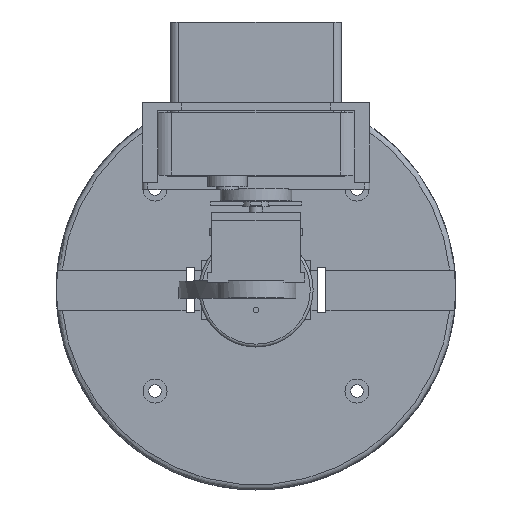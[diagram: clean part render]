
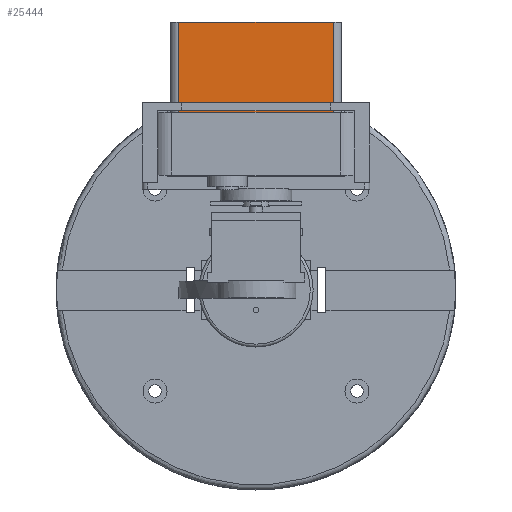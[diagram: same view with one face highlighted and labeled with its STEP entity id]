
A CAD part, top view. The second image highlights one B-rep face of the part: STEP entity #25444.
In plain terms, the highlighted planar face has unit normal (0, 0, 1).
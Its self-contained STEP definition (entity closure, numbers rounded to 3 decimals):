
#24814 = PLANE('',#24815);
#24815 = AXIS2_PLACEMENT_3D('',#24816,#24817,#24818);
#24816 = CARTESIAN_POINT('',(-30.,49.,90.));
#24817 = DIRECTION('',(0.,1.,0.));
#24818 = DIRECTION('',(0.,0.,1.));
#24870 = PLANE('',#24871);
#24871 = AXIS2_PLACEMENT_3D('',#24872,#24873,#24874);
#24872 = CARTESIAN_POINT('',(-30.,93.64,90.));
#24873 = DIRECTION('',(0.,1.,0.));
#24874 = DIRECTION('',(0.,0.,1.));
#24896 = CYLINDRICAL_SURFACE('',#24897,3.);
#24897 = AXIS2_PLACEMENT_3D('',#24898,#24899,#24900);
#24898 = CARTESIAN_POINT('',(-27.,49.,99.));
#24899 = DIRECTION('',(0.,1.,0.));
#24900 = DIRECTION('',(-1.,0.,0.));
#24969 = VERTEX_POINT('',#24970);
#24970 = CARTESIAN_POINT('',(-27.,49.,102.));
#24992 = EDGE_CURVE('',#24969,#24993,#24995,.T.);
#24993 = VERTEX_POINT('',#24994);
#24994 = CARTESIAN_POINT('',(27.,49.,102.));
#24995 = SURFACE_CURVE('',#24996,(#25000,#25007),.PCURVE_S1.);
#24996 = LINE('',#24997,#24998);
#24997 = CARTESIAN_POINT('',(-30.,49.,102.));
#24998 = VECTOR('',#24999,1.);
#24999 = DIRECTION('',(1.,0.,0.));
#25000 = PCURVE('',#24814,#25001);
#25001 = DEFINITIONAL_REPRESENTATION('',(#25002),#25006);
#25002 = LINE('',#25003,#25004);
#25003 = CARTESIAN_POINT('',(12.,0.));
#25004 = VECTOR('',#25005,1.);
#25005 = DIRECTION('',(0.,1.));
#25006 = ( GEOMETRIC_REPRESENTATION_CONTEXT(2) 
PARAMETRIC_REPRESENTATION_CONTEXT() REPRESENTATION_CONTEXT('2D SPACE',''
  ) );
#25007 = PCURVE('',#25008,#25013);
#25008 = PLANE('',#25009);
#25009 = AXIS2_PLACEMENT_3D('',#25010,#25011,#25012);
#25010 = CARTESIAN_POINT('',(-30.,49.,102.));
#25011 = DIRECTION('',(0.,0.,1.));
#25012 = DIRECTION('',(1.,0.,0.));
#25013 = DEFINITIONAL_REPRESENTATION('',(#25014),#25018);
#25014 = LINE('',#25015,#25016);
#25015 = CARTESIAN_POINT('',(0.,0.));
#25016 = VECTOR('',#25017,1.);
#25017 = DIRECTION('',(1.,0.));
#25018 = ( GEOMETRIC_REPRESENTATION_CONTEXT(2) 
PARAMETRIC_REPRESENTATION_CONTEXT() REPRESENTATION_CONTEXT('2D SPACE',''
  ) );
#25041 = CYLINDRICAL_SURFACE('',#25042,3.);
#25042 = AXIS2_PLACEMENT_3D('',#25043,#25044,#25045);
#25043 = CARTESIAN_POINT('',(27.,49.,99.));
#25044 = DIRECTION('',(0.,1.,0.));
#25045 = DIRECTION('',(1.,0.,-0.));
#25166 = EDGE_CURVE('',#24969,#25167,#25169,.T.);
#25167 = VERTEX_POINT('',#25168);
#25168 = CARTESIAN_POINT('',(-27.,93.64,102.));
#25169 = SURFACE_CURVE('',#25170,(#25174,#25181),.PCURVE_S1.);
#25170 = LINE('',#25171,#25172);
#25171 = CARTESIAN_POINT('',(-27.,49.,102.));
#25172 = VECTOR('',#25173,1.);
#25173 = DIRECTION('',(0.,1.,0.));
#25174 = PCURVE('',#24896,#25175);
#25175 = DEFINITIONAL_REPRESENTATION('',(#25176),#25180);
#25176 = LINE('',#25177,#25178);
#25177 = CARTESIAN_POINT('',(1.571,0.));
#25178 = VECTOR('',#25179,1.);
#25179 = DIRECTION('',(0.,1.));
#25180 = ( GEOMETRIC_REPRESENTATION_CONTEXT(2) 
PARAMETRIC_REPRESENTATION_CONTEXT() REPRESENTATION_CONTEXT('2D SPACE',''
  ) );
#25181 = PCURVE('',#25008,#25182);
#25182 = DEFINITIONAL_REPRESENTATION('',(#25183),#25187);
#25183 = LINE('',#25184,#25185);
#25184 = CARTESIAN_POINT('',(3.,0.));
#25185 = VECTOR('',#25186,1.);
#25186 = DIRECTION('',(0.,1.));
#25187 = ( GEOMETRIC_REPRESENTATION_CONTEXT(2) 
PARAMETRIC_REPRESENTATION_CONTEXT() REPRESENTATION_CONTEXT('2D SPACE',''
  ) );
#25241 = EDGE_CURVE('',#25167,#25242,#25244,.T.);
#25242 = VERTEX_POINT('',#25243);
#25243 = CARTESIAN_POINT('',(27.,93.64,102.));
#25244 = SURFACE_CURVE('',#25245,(#25249,#25256),.PCURVE_S1.);
#25245 = LINE('',#25246,#25247);
#25246 = CARTESIAN_POINT('',(-30.,93.64,102.));
#25247 = VECTOR('',#25248,1.);
#25248 = DIRECTION('',(1.,0.,0.));
#25249 = PCURVE('',#24870,#25250);
#25250 = DEFINITIONAL_REPRESENTATION('',(#25251),#25255);
#25251 = LINE('',#25252,#25253);
#25252 = CARTESIAN_POINT('',(12.,0.));
#25253 = VECTOR('',#25254,1.);
#25254 = DIRECTION('',(0.,1.));
#25255 = ( GEOMETRIC_REPRESENTATION_CONTEXT(2) 
PARAMETRIC_REPRESENTATION_CONTEXT() REPRESENTATION_CONTEXT('2D SPACE',''
  ) );
#25256 = PCURVE('',#25008,#25257);
#25257 = DEFINITIONAL_REPRESENTATION('',(#25258),#25262);
#25258 = LINE('',#25259,#25260);
#25259 = CARTESIAN_POINT('',(0.,44.64));
#25260 = VECTOR('',#25261,1.);
#25261 = DIRECTION('',(1.,0.));
#25262 = ( GEOMETRIC_REPRESENTATION_CONTEXT(2) 
PARAMETRIC_REPRESENTATION_CONTEXT() REPRESENTATION_CONTEXT('2D SPACE',''
  ) );
#25422 = EDGE_CURVE('',#24993,#25242,#25423,.T.);
#25423 = SURFACE_CURVE('',#25424,(#25428,#25435),.PCURVE_S1.);
#25424 = LINE('',#25425,#25426);
#25425 = CARTESIAN_POINT('',(27.,49.,102.));
#25426 = VECTOR('',#25427,1.);
#25427 = DIRECTION('',(0.,1.,0.));
#25428 = PCURVE('',#25041,#25429);
#25429 = DEFINITIONAL_REPRESENTATION('',(#25430),#25434);
#25430 = LINE('',#25431,#25432);
#25431 = CARTESIAN_POINT('',(-1.571,0.));
#25432 = VECTOR('',#25433,1.);
#25433 = DIRECTION('',(-0.,1.));
#25434 = ( GEOMETRIC_REPRESENTATION_CONTEXT(2) 
PARAMETRIC_REPRESENTATION_CONTEXT() REPRESENTATION_CONTEXT('2D SPACE',''
  ) );
#25435 = PCURVE('',#25008,#25436);
#25436 = DEFINITIONAL_REPRESENTATION('',(#25437),#25441);
#25437 = LINE('',#25438,#25439);
#25438 = CARTESIAN_POINT('',(57.,0.));
#25439 = VECTOR('',#25440,1.);
#25440 = DIRECTION('',(0.,1.));
#25441 = ( GEOMETRIC_REPRESENTATION_CONTEXT(2) 
PARAMETRIC_REPRESENTATION_CONTEXT() REPRESENTATION_CONTEXT('2D SPACE',''
  ) );
#25444 = ADVANCED_FACE('',(#25445),#25008,.T.);
#25445 = FACE_BOUND('',#25446,.T.);
#25446 = EDGE_LOOP('',(#25447,#25448,#25449,#25450));
#25447 = ORIENTED_EDGE('',*,*,#25241,.F.);
#25448 = ORIENTED_EDGE('',*,*,#25166,.F.);
#25449 = ORIENTED_EDGE('',*,*,#24992,.T.);
#25450 = ORIENTED_EDGE('',*,*,#25422,.T.);
